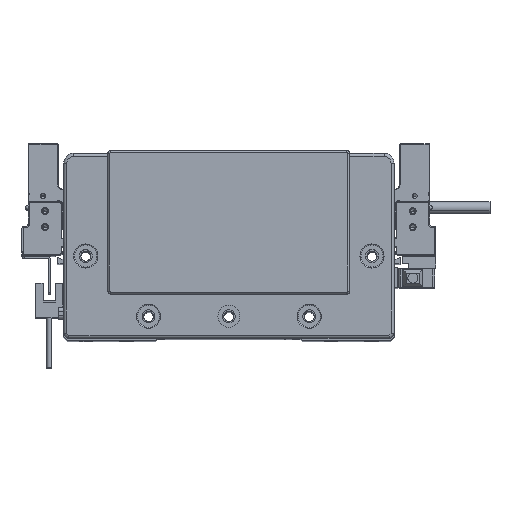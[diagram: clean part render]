
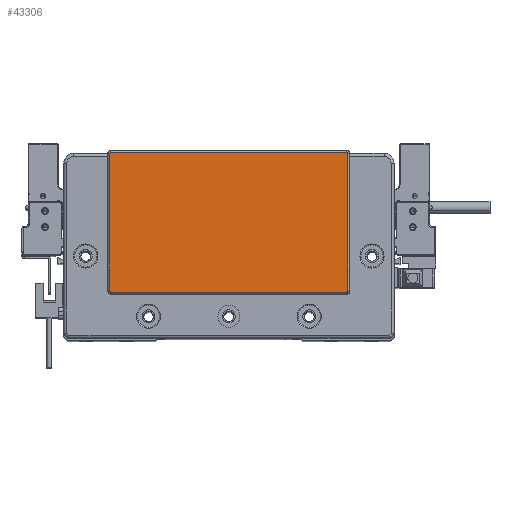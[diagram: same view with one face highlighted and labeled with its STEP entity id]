
A CAD part, top view. The second image highlights one B-rep face of the part: STEP entity #43306.
In plain terms, the highlighted planar face has unit normal (0, 0, 1) as drawn and (0, 0, -1) by its records, which use the part's own axes.
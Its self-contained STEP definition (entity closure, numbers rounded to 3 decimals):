
#3497 = AXIS2_PLACEMENT_3D ( 'NONE', #21413, #81329, #68459 ) ;
#4331 = ORIENTED_EDGE ( 'NONE', *, *, #53389, .T. ) ;
#5358 = CARTESIAN_POINT ( 'NONE',  ( -58.75, -23.3, -2. ) ) ;
#5967 = EDGE_CURVE ( 'NONE', #30637, #84433, #13349, .T. ) ;
#6246 = DIRECTION ( 'NONE',  ( 0., 0., -1. ) ) ;
#7549 = CARTESIAN_POINT ( 'NONE',  ( 58.75, 45.8, -2. ) ) ;
#10602 = CIRCLE ( 'NONE', #78623, 0.5 ) ;
#10700 = DIRECTION ( 'NONE',  ( -1., 0., 0. ) ) ;
#10977 = DIRECTION ( 'NONE',  ( 1., 0., 0. ) ) ;
#12795 = VERTEX_POINT ( 'NONE', #50346 ) ;
#13349 = CIRCLE ( 'NONE', #74232, 0.5 ) ;
#14598 = CARTESIAN_POINT ( 'NONE',  ( 58.75, -23.3, -2. ) ) ;
#19945 = DIRECTION ( 'NONE',  ( -1., 0., 0. ) ) ;
#20219 = VECTOR ( 'NONE', #79256, 1000. ) ;
#20852 = DIRECTION ( 'NONE',  ( 0., 0., -1. ) ) ;
#21413 = CARTESIAN_POINT ( 'NONE',  ( 0., 0., -2. ) ) ;
#21846 = PLANE ( 'NONE',  #3497 ) ;
#24565 = DIRECTION ( 'NONE',  ( 0., -1., 0. ) ) ;
#27729 = CARTESIAN_POINT ( 'NONE',  ( 58.75, -23.8, -2. ) ) ;
#27829 = AXIS2_PLACEMENT_3D ( 'NONE', #14598, #20852, #41272 ) ;
#29375 = CARTESIAN_POINT ( 'NONE',  ( -58.75, 45.3, -2. ) ) ;
#30637 = VERTEX_POINT ( 'NONE', #7549 ) ;
#30677 = CIRCLE ( 'NONE', #27829, 0.5 ) ;
#31382 = CARTESIAN_POINT ( 'NONE',  ( 58.75, 45.8, -2. ) ) ;
#33330 = DIRECTION ( 'NONE',  ( -1., 0., 0. ) ) ;
#34928 = VERTEX_POINT ( 'NONE', #67526 ) ;
#35584 = EDGE_CURVE ( 'NONE', #44478, #30637, #52247, .T. ) ;
#37411 = EDGE_LOOP ( 'NONE', ( #67811, #70421, #4331, #67868, #72336, #76501, #69713, #57949 ) ) ;
#37894 = LINE ( 'NONE', #44572, #50966 ) ;
#41272 = DIRECTION ( 'NONE',  ( -1., 0., 0. ) ) ;
#43306 = ADVANCED_FACE ( 'NONE', ( #60918 ), #21846, .T. ) ;
#43487 = EDGE_CURVE ( 'NONE', #34928, #44478, #10602, .T. ) ;
#44478 = VERTEX_POINT ( 'NONE', #66829 ) ;
#44572 = CARTESIAN_POINT ( 'NONE',  ( 59.25, -23.3, -2. ) ) ;
#50131 = CARTESIAN_POINT ( 'NONE',  ( -58.75, -23.8, -2. ) ) ;
#50346 = CARTESIAN_POINT ( 'NONE',  ( -59.25, -23.3, -2. ) ) ;
#50966 = VECTOR ( 'NONE', #24565, 1000. ) ;
#52247 = LINE ( 'NONE', #31382, #70468 ) ;
#52643 = LINE ( 'NONE', #78818, #20219 ) ;
#53389 = EDGE_CURVE ( 'NONE', #72428, #69266, #61235, .T. ) ;
#57645 = DIRECTION ( 'NONE',  ( -1., 0., 0. ) ) ;
#57681 = AXIS2_PLACEMENT_3D ( 'NONE', #5358, #6246, #33330 ) ;
#57949 = ORIENTED_EDGE ( 'NONE', *, *, #5967, .T. ) ;
#58980 = EDGE_CURVE ( 'NONE', #68676, #72428, #30677, .T. ) ;
#60918 = FACE_OUTER_BOUND ( 'NONE', #37411, .T. ) ;
#61235 = LINE ( 'NONE', #50131, #61584 ) ;
#61584 = VECTOR ( 'NONE', #57645, 1000. ) ;
#61658 = EDGE_CURVE ( 'NONE', #84433, #68676, #37894, .T. ) ;
#66829 = CARTESIAN_POINT ( 'NONE',  ( -58.75, 45.8, -2. ) ) ;
#67526 = CARTESIAN_POINT ( 'NONE',  ( -59.25, 45.3, -2. ) ) ;
#67811 = ORIENTED_EDGE ( 'NONE', *, *, #61658, .T. ) ;
#67868 = ORIENTED_EDGE ( 'NONE', *, *, #82517, .T. ) ;
#68459 = DIRECTION ( 'NONE',  ( -1., 0., 0. ) ) ;
#68676 = VERTEX_POINT ( 'NONE', #75489 ) ;
#69266 = VERTEX_POINT ( 'NONE', #75388 ) ;
#69713 = ORIENTED_EDGE ( 'NONE', *, *, #35584, .T. ) ;
#69760 = DIRECTION ( 'NONE',  ( 0., 0., -1. ) ) ;
#70421 = ORIENTED_EDGE ( 'NONE', *, *, #58980, .T. ) ;
#70468 = VECTOR ( 'NONE', #10977, 1000. ) ;
#72336 = ORIENTED_EDGE ( 'NONE', *, *, #87224, .T. ) ;
#72428 = VERTEX_POINT ( 'NONE', #27729 ) ;
#74232 = AXIS2_PLACEMENT_3D ( 'NONE', #80731, #80289, #19945 ) ;
#75388 = CARTESIAN_POINT ( 'NONE',  ( -58.75, -23.8, -2. ) ) ;
#75489 = CARTESIAN_POINT ( 'NONE',  ( 59.25, -23.3, -2. ) ) ;
#76501 = ORIENTED_EDGE ( 'NONE', *, *, #43487, .T. ) ;
#78623 = AXIS2_PLACEMENT_3D ( 'NONE', #29375, #69760, #10700 ) ;
#78818 = CARTESIAN_POINT ( 'NONE',  ( -59.25, 45.3, -2. ) ) ;
#79256 = DIRECTION ( 'NONE',  ( 0., 1., 0. ) ) ;
#80289 = DIRECTION ( 'NONE',  ( 0., 0., -1. ) ) ;
#80731 = CARTESIAN_POINT ( 'NONE',  ( 58.75, 45.3, -2. ) ) ;
#81329 = DIRECTION ( 'NONE',  ( 0., 0., -1. ) ) ;
#81849 = CARTESIAN_POINT ( 'NONE',  ( 59.25, 45.3, -2. ) ) ;
#82517 = EDGE_CURVE ( 'NONE', #69266, #12795, #84608, .T. ) ;
#84433 = VERTEX_POINT ( 'NONE', #81849 ) ;
#84608 = CIRCLE ( 'NONE', #57681, 0.5 ) ;
#87224 = EDGE_CURVE ( 'NONE', #12795, #34928, #52643, .T. ) ;
